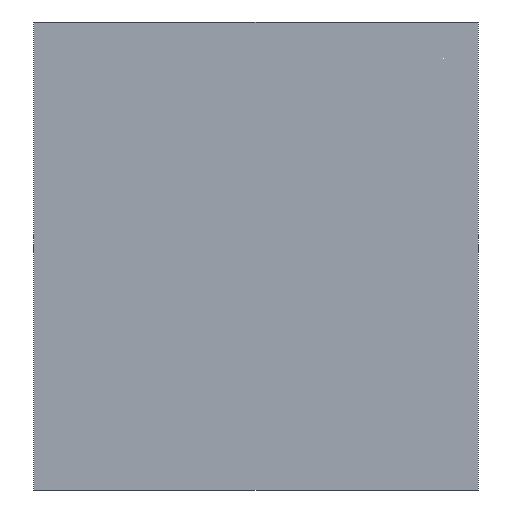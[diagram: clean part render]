
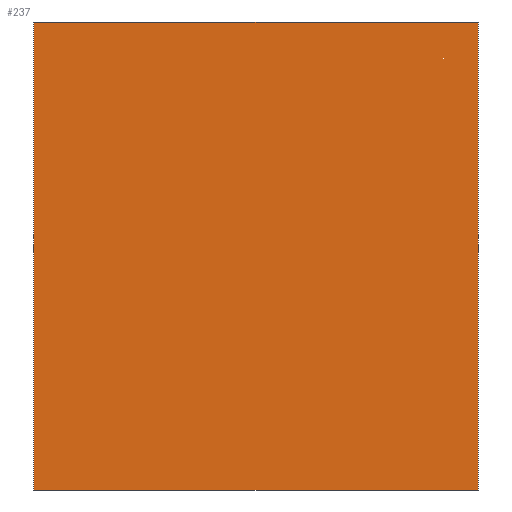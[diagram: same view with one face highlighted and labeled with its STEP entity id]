
A CAD part, front view. The second image highlights one B-rep face of the part: STEP entity #237.
In plain terms, the highlighted planar face has unit normal (0, -1, 0).
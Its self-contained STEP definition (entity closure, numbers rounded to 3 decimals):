
#21 = EDGE_CURVE('',#22,#24,#26,.T.);
#22 = VERTEX_POINT('',#23);
#23 = CARTESIAN_POINT('',(5.5,-26.775,5.9));
#24 = VERTEX_POINT('',#25);
#25 = CARTESIAN_POINT('',(5.5,-26.775,21.7));
#26 = SURFACE_CURVE('',#27,(#31,#43),.PCURVE_S1.);
#27 = LINE('',#28,#29);
#28 = CARTESIAN_POINT('',(5.5,-26.775,5.9));
#29 = VECTOR('',#30,1.);
#30 = DIRECTION('',(0.,0.,1.));
#31 = PCURVE('',#32,#37);
#32 = PLANE('',#33);
#33 = AXIS2_PLACEMENT_3D('',#34,#35,#36);
#34 = CARTESIAN_POINT('',(5.5,-26.775,5.9));
#35 = DIRECTION('',(1.,0.,0.));
#36 = DIRECTION('',(0.,0.,1.));
#37 = DEFINITIONAL_REPRESENTATION('',(#38),#42);
#38 = LINE('',#39,#40);
#39 = CARTESIAN_POINT('',(0.,0.));
#40 = VECTOR('',#41,1.);
#41 = DIRECTION('',(1.,0.));
#42 = ( GEOMETRIC_REPRESENTATION_CONTEXT(2) 
PARAMETRIC_REPRESENTATION_CONTEXT() REPRESENTATION_CONTEXT('2D SPACE',''
  ) );
#43 = PCURVE('',#44,#49);
#44 = PLANE('',#45);
#45 = AXIS2_PLACEMENT_3D('',#46,#47,#48);
#46 = CARTESIAN_POINT('',(5.5,-26.775,5.9));
#47 = DIRECTION('',(0.,1.,0.));
#48 = DIRECTION('',(0.,0.,1.));
#49 = DEFINITIONAL_REPRESENTATION('',(#50),#54);
#50 = LINE('',#51,#52);
#51 = CARTESIAN_POINT('',(0.,0.));
#52 = VECTOR('',#53,1.);
#53 = DIRECTION('',(1.,0.));
#54 = ( GEOMETRIC_REPRESENTATION_CONTEXT(2) 
PARAMETRIC_REPRESENTATION_CONTEXT() REPRESENTATION_CONTEXT('2D SPACE',''
  ) );
#72 = PLANE('',#73);
#73 = AXIS2_PLACEMENT_3D('',#74,#75,#76);
#74 = CARTESIAN_POINT('',(5.5,-26.775,5.9));
#75 = DIRECTION('',(0.,0.,1.));
#76 = DIRECTION('',(1.,0.,0.));
#126 = PLANE('',#127);
#127 = AXIS2_PLACEMENT_3D('',#128,#129,#130);
#128 = CARTESIAN_POINT('',(5.5,-26.775,21.7));
#129 = DIRECTION('',(0.,0.,1.));
#130 = DIRECTION('',(1.,0.,0.));
#141 = EDGE_CURVE('',#142,#144,#146,.T.);
#142 = VERTEX_POINT('',#143);
#143 = CARTESIAN_POINT('',(20.5,-26.775,5.9));
#144 = VERTEX_POINT('',#145);
#145 = CARTESIAN_POINT('',(20.5,-26.775,21.7));
#146 = SURFACE_CURVE('',#147,(#151,#163),.PCURVE_S1.);
#147 = LINE('',#148,#149);
#148 = CARTESIAN_POINT('',(20.5,-26.775,5.9));
#149 = VECTOR('',#150,1.);
#150 = DIRECTION('',(0.,0.,1.));
#151 = PCURVE('',#152,#157);
#152 = PLANE('',#153);
#153 = AXIS2_PLACEMENT_3D('',#154,#155,#156);
#154 = CARTESIAN_POINT('',(20.5,-26.775,5.9));
#155 = DIRECTION('',(1.,0.,0.));
#156 = DIRECTION('',(0.,0.,1.));
#157 = DEFINITIONAL_REPRESENTATION('',(#158),#162);
#158 = LINE('',#159,#160);
#159 = CARTESIAN_POINT('',(0.,0.));
#160 = VECTOR('',#161,1.);
#161 = DIRECTION('',(1.,0.));
#162 = ( GEOMETRIC_REPRESENTATION_CONTEXT(2) 
PARAMETRIC_REPRESENTATION_CONTEXT() REPRESENTATION_CONTEXT('2D SPACE',''
  ) );
#163 = PCURVE('',#44,#164);
#164 = DEFINITIONAL_REPRESENTATION('',(#165),#169);
#165 = LINE('',#166,#167);
#166 = CARTESIAN_POINT('',(0.,15.));
#167 = VECTOR('',#168,1.);
#168 = DIRECTION('',(1.,0.));
#169 = ( GEOMETRIC_REPRESENTATION_CONTEXT(2) 
PARAMETRIC_REPRESENTATION_CONTEXT() REPRESENTATION_CONTEXT('2D SPACE',''
  ) );
#237 = ADVANCED_FACE('',(#238),#44,.F.);
#238 = FACE_BOUND('',#239,.F.);
#239 = EDGE_LOOP('',(#240,#261,#262,#283));
#240 = ORIENTED_EDGE('',*,*,#241,.F.);
#241 = EDGE_CURVE('',#22,#142,#242,.T.);
#242 = SURFACE_CURVE('',#243,(#247,#254),.PCURVE_S1.);
#243 = LINE('',#244,#245);
#244 = CARTESIAN_POINT('',(5.5,-26.775,5.9));
#245 = VECTOR('',#246,1.);
#246 = DIRECTION('',(1.,0.,0.));
#247 = PCURVE('',#44,#248);
#248 = DEFINITIONAL_REPRESENTATION('',(#249),#253);
#249 = LINE('',#250,#251);
#250 = CARTESIAN_POINT('',(0.,0.));
#251 = VECTOR('',#252,1.);
#252 = DIRECTION('',(0.,1.));
#253 = ( GEOMETRIC_REPRESENTATION_CONTEXT(2) 
PARAMETRIC_REPRESENTATION_CONTEXT() REPRESENTATION_CONTEXT('2D SPACE',''
  ) );
#254 = PCURVE('',#72,#255);
#255 = DEFINITIONAL_REPRESENTATION('',(#256),#260);
#256 = LINE('',#257,#258);
#257 = CARTESIAN_POINT('',(0.,0.));
#258 = VECTOR('',#259,1.);
#259 = DIRECTION('',(1.,0.));
#260 = ( GEOMETRIC_REPRESENTATION_CONTEXT(2) 
PARAMETRIC_REPRESENTATION_CONTEXT() REPRESENTATION_CONTEXT('2D SPACE',''
  ) );
#261 = ORIENTED_EDGE('',*,*,#21,.T.);
#262 = ORIENTED_EDGE('',*,*,#263,.T.);
#263 = EDGE_CURVE('',#24,#144,#264,.T.);
#264 = SURFACE_CURVE('',#265,(#269,#276),.PCURVE_S1.);
#265 = LINE('',#266,#267);
#266 = CARTESIAN_POINT('',(5.5,-26.775,21.7));
#267 = VECTOR('',#268,1.);
#268 = DIRECTION('',(1.,0.,0.));
#269 = PCURVE('',#44,#270);
#270 = DEFINITIONAL_REPRESENTATION('',(#271),#275);
#271 = LINE('',#272,#273);
#272 = CARTESIAN_POINT('',(15.8,0.));
#273 = VECTOR('',#274,1.);
#274 = DIRECTION('',(0.,1.));
#275 = ( GEOMETRIC_REPRESENTATION_CONTEXT(2) 
PARAMETRIC_REPRESENTATION_CONTEXT() REPRESENTATION_CONTEXT('2D SPACE',''
  ) );
#276 = PCURVE('',#126,#277);
#277 = DEFINITIONAL_REPRESENTATION('',(#278),#282);
#278 = LINE('',#279,#280);
#279 = CARTESIAN_POINT('',(0.,0.));
#280 = VECTOR('',#281,1.);
#281 = DIRECTION('',(1.,0.));
#282 = ( GEOMETRIC_REPRESENTATION_CONTEXT(2) 
PARAMETRIC_REPRESENTATION_CONTEXT() REPRESENTATION_CONTEXT('2D SPACE',''
  ) );
#283 = ORIENTED_EDGE('',*,*,#141,.F.);
